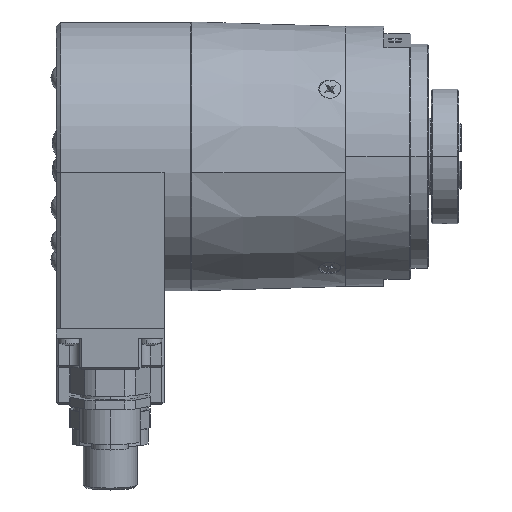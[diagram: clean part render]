
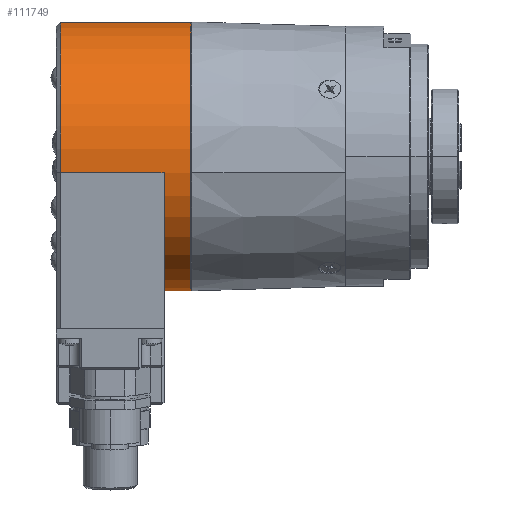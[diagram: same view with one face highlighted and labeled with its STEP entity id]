
A CAD part, top view. The second image highlights one B-rep face of the part: STEP entity #111749.
In plain terms, the highlighted cylindrical face has radius 30 mm (diameter 60 mm), a partial arc.
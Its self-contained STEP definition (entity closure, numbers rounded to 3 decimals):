
#4316 = DIRECTION ( 'NONE',  ( -1., 0., 0. ) ) ;
#4317 = VECTOR ( 'NONE', #4316, 1000. ) ;
#4318 = CARTESIAN_POINT ( 'NONE',  ( -26.295, 30.704, 3.325 ) ) ;
#4319 = LINE ( 'NONE', #4318, #4317 ) ;
#98488 = FACE_OUTER_BOUND ( 'NONE', #111752, .T. ) ;
#98520 = AXIS2_PLACEMENT_3D ( 'NONE', #98550, #98549, #98548 ) ;
#98522 = CIRCLE ( 'NONE', #98520, 30. ) ;
#98548 = DIRECTION ( 'NONE',  ( 0., -0.993, -0.122 ) ) ;
#98549 = DIRECTION ( 'NONE',  ( 1., 0., 0. ) ) ;
#98550 = CARTESIAN_POINT ( 'NONE',  ( -26.295, 0.928, -0.332 ) ) ;
#98562 = DIRECTION ( 'NONE',  ( 0., 0.993, 0.122 ) ) ;
#98563 = DIRECTION ( 'NONE',  ( -1., 0., 0. ) ) ;
#98565 = AXIS2_PLACEMENT_3D ( 'NONE', #98576, #98563, #98562 ) ;
#98567 = CYLINDRICAL_SURFACE ( 'NONE', #98565, 30. ) ;
#98576 = CARTESIAN_POINT ( 'NONE',  ( -26.295, 0.928, -0.332 ) ) ;
#98608 = DIRECTION ( 'NONE',  ( -1., 0., 0. ) ) ;
#98609 = VECTOR ( 'NONE', #98608, 1000. ) ;
#98610 = CARTESIAN_POINT ( 'NONE',  ( -32.295, -2.728, 29.445 ) ) ;
#98611 = LINE ( 'NONE', #98610, #98609 ) ;
#98617 = CARTESIAN_POINT ( 'NONE',  ( -55.295, -2.728, 29.445 ) ) ;
#98628 = DIRECTION ( 'NONE',  ( 0., -0.993, -0.122 ) ) ;
#98629 = DIRECTION ( 'NONE',  ( 1., 0., 0. ) ) ;
#98630 = CARTESIAN_POINT ( 'NONE',  ( -55.295, 0.928, -0.332 ) ) ;
#98631 = AXIS2_PLACEMENT_3D ( 'NONE', #98630, #98629, #98628 ) ;
#98633 = CIRCLE ( 'NONE', #98631, 30. ) ;
#98768 = CIRCLE ( 'NONE', #98862, 30. ) ;
#98800 = CARTESIAN_POINT ( 'NONE',  ( -32.295, -2.728, 29.445 ) ) ;
#98856 = DIRECTION ( 'NONE',  ( 0., 0.122, -0.993 ) ) ;
#98858 = DIRECTION ( 'NONE',  ( -1., 0., 0. ) ) ;
#98860 = CARTESIAN_POINT ( 'NONE',  ( -32.295, 0.928, -0.332 ) ) ;
#98862 = AXIS2_PLACEMENT_3D ( 'NONE', #98860, #98858, #98856 ) ;
#101876 = VERTEX_POINT ( 'NONE', #117617 ) ;
#102017 = VERTEX_POINT ( 'NONE', #118014 ) ;
#102023 = VERTEX_POINT ( 'NONE', #118005 ) ;
#102033 = EDGE_CURVE ( 'NONE', #102017, #102038, #117996, .T. ) ;
#102038 = VERTEX_POINT ( 'NONE', #117987 ) ;
#106626 = EDGE_CURVE ( 'NONE', #102023, #101876, #4319, .T. ) ;
#111749 = ADVANCED_FACE ( 'NONE', ( #98488 ), #98567, .T. ) ;
#111752 = EDGE_LOOP ( 'NONE', ( #111754, #111761, #111771, #111776, #111787, #112064 ) ) ;
#111754 = ORIENTED_EDGE ( 'NONE', *, *, #102033, .F. ) ;
#111761 = ORIENTED_EDGE ( 'NONE', *, *, #111763, .F. ) ;
#111763 = EDGE_CURVE ( 'NONE', #102023, #102017, #98522, .T. ) ;
#111771 = ORIENTED_EDGE ( 'NONE', *, *, #106626, .T. ) ;
#111776 = ORIENTED_EDGE ( 'NONE', *, *, #111780, .T. ) ;
#111780 = EDGE_CURVE ( 'NONE', #101876, #111784, #98633, .T. ) ;
#111784 = VERTEX_POINT ( 'NONE', #98617 ) ;
#111787 = ORIENTED_EDGE ( 'NONE', *, *, #111789, .F. ) ;
#111789 = EDGE_CURVE ( 'NONE', #112062, #111784, #98611, .T. ) ;
#112062 = VERTEX_POINT ( 'NONE', #98800 ) ;
#112064 = ORIENTED_EDGE ( 'NONE', *, *, #112068, .F. ) ;
#112068 = EDGE_CURVE ( 'NONE', #102038, #112062, #98768, .T. ) ;
#117617 = CARTESIAN_POINT ( 'NONE',  ( -55.295, 30.704, 3.325 ) ) ;
#117987 = CARTESIAN_POINT ( 'NONE',  ( -32.295, -28.849, -3.988 ) ) ;
#117992 = DIRECTION ( 'NONE',  ( -1., 0., 0. ) ) ;
#117993 = VECTOR ( 'NONE', #117992, 1000. ) ;
#117995 = CARTESIAN_POINT ( 'NONE',  ( -26.295, -28.849, -3.988 ) ) ;
#117996 = LINE ( 'NONE', #117995, #117993 ) ;
#118005 = CARTESIAN_POINT ( 'NONE',  ( -26.295, 30.704, 3.325 ) ) ;
#118014 = CARTESIAN_POINT ( 'NONE',  ( -26.295, -28.849, -3.988 ) ) ;
